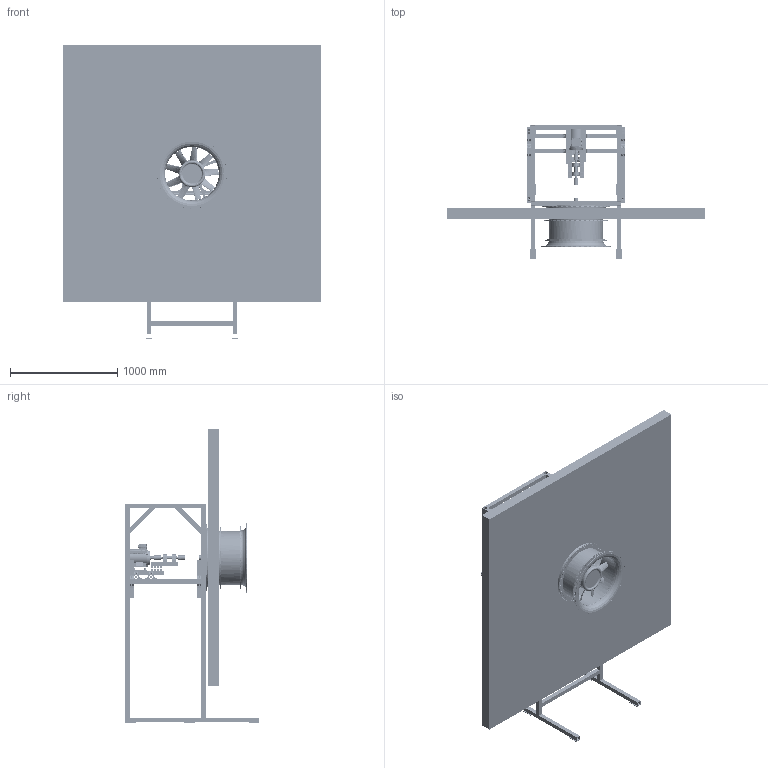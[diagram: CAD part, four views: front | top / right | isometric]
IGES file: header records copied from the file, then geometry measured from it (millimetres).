
Start section: C
Global section: file name: cad_model.igs; native system: By Siemens PLM Incorporated; preprocessor: XPlus GENERIC/IGES 18.0.17; author: Author; organization: Title; date: 20170323.160108; units: millimetre
Bounding box: 2400 x 1255 x 2740 mm (x, y, z)
Surface area: 24236422.5 mm2 (no closed solid volume)
Topology: 0 solids, 0 shells, 3864 faces, 24507 edges, 24486 vertices
Faces by surface type: bspline 3864
